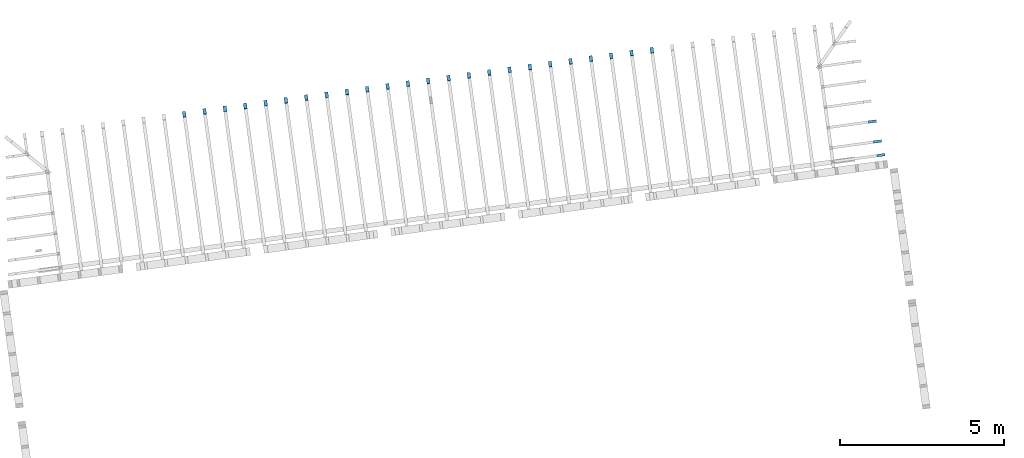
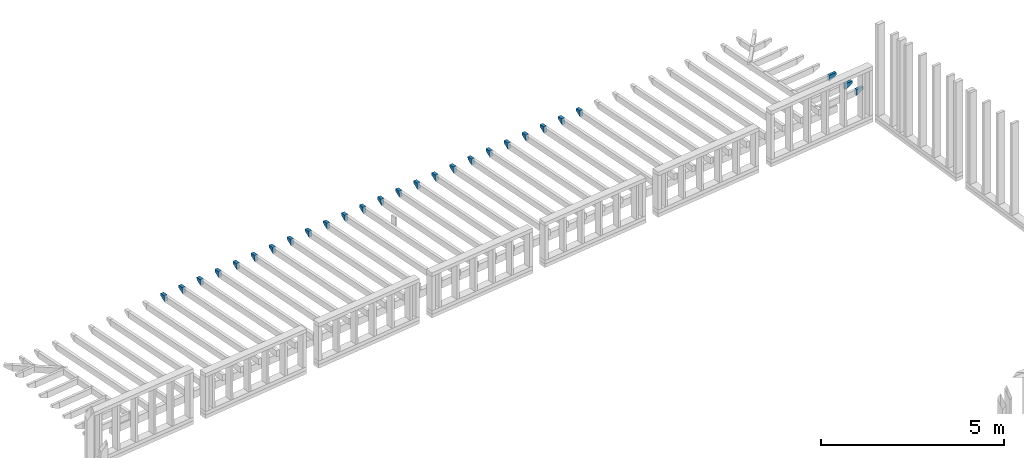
# One storey, part 15 of 16: 27 building element parts, 27 elements without a shape of their own.
"""IFC2X3 building model written with IfcOpenShell, lengths in metres."""

from ifc_helpers import new_model, entity, si_unit, converted_unit, derived_unit, money_unit, direction, frame, origin_with_axes, place, context, subcontext, project, spatial, faceted_brep, material, type_object, element, aggregate, save


model = new_model("IFC2X3")

# Units and contexts
model_context = context("Model", 3, precision=1e-05, world=origin_with_axes(), true_north=direction((0.0, 1.0)))
body_context = subcontext(model_context, "Body", "Model", "MODEL_VIEW")
ifc_project = project(units=[si_unit("LENGTHUNIT", "METRE"), si_unit("AREAUNIT", "SQUARE_METRE"), si_unit("VOLUMEUNIT", "CUBIC_METRE"), converted_unit("PLANEANGLEUNIT", "DEGREE", entity("IfcPlaneAngleMeasure", 0.0174532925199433), si_unit("PLANEANGLEUNIT", "RADIAN"), dimensions=[0, 0, 0, 0, 0, 0, 0]), money_unit("EUR"), converted_unit("TIMEUNIT", "Year", entity("IfcTimeMeasure", 31557600.0), si_unit("TIMEUNIT", "SECOND"), dimensions=[0, 0, 1, 0, 0, 0, 0]), si_unit("MASSUNIT", "GRAM", prefix="KILO"), si_unit("THERMODYNAMICTEMPERATUREUNIT", "DEGREE_CELSIUS"), si_unit("LUMINOUSINTENSITYUNIT", "LUMEN"), si_unit("ENERGYUNIT", "JOULE", prefix="MEGA"), derived_unit("THERMALCONDUCTANCEUNIT", [(si_unit("POWERUNIT", "WATT"), 1), (si_unit("LENGTHUNIT", "METRE"), -1), (si_unit("THERMODYNAMICTEMPERATUREUNIT", "KELVIN"), -1)]), derived_unit("SPECIFICHEATCAPACITYUNIT", [(si_unit("ENERGYUNIT", "JOULE"), 1), (si_unit("MASSUNIT", "GRAM", prefix="KILO"), -1), (si_unit("THERMODYNAMICTEMPERATUREUNIT", "KELVIN"), -1)]), derived_unit("MASSDENSITYUNIT", [(si_unit("MASSUNIT", "GRAM", prefix="KILO"), 1), (si_unit("VOLUMEUNIT", "CUBIC_METRE"), -1)])], contexts=[model_context])

# Site, building, storey
site_placement = place(None, origin_with_axes())
site = spatial("IfcSite", under=ifc_project, at=site_placement, Name="Gelände", CompositionType="ELEMENT")
building_placement = place(site_placement, origin_with_axes())
building = spatial("IfcBuilding", under=site, at=building_placement, Name="Gebäude", CompositionType="ELEMENT")
storey_placement = place(building_placement, frame((0.0, 0.0, 3.0), z_axis=(0.0, 0.0, 1.0), x_axis=(1.0, 0.0, 0.0)))
storey = spatial("IfcBuildingStorey", under=building, at=storey_placement, Name="ZG", CompositionType="ELEMENT", Elevation=3.0)

# Beam, building element part
beam_type_1 = type_object("IfcBeamType", Name="Verschiedene Strukturen - 2 Segmente - 100 x 200 x 4381 (4214+167)", PredefinedType="NOTDEFINED")
beam_1_placement = place(storey_placement, frame((101.7599355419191, -133.3067339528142, 1.028226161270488), z_axis=(0.0, 0.0, 1.0), x_axis=(0.9907484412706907, 0.1357111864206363, 0.0)))
beam_1 = element("IfcBeam", 1, at=beam_1_placement, inside=storey, type_object=beam_type_1, Name="Unterzug-034")
ifc_material = material(Name="Holz, Bauholz-hart")
building_element_part_1_placement = place(beam_1_placement, origin_with_axes())
building_element_part_1 = element("IfcBuildingElementPart", 2, at=building_element_part_1_placement, material=ifc_material, Name="Holz, Bauholz-hart", context=body_context, shape_type="Brep", body=[
    faceted_brep([(0.05000000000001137, 4.370583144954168, -0.3091623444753), (0.04999999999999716, 4.197525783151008, -0.4202574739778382), (-0.04999999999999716, 4.197525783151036, -0.4202574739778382), (-0.04999999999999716, 4.370583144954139, -0.3091623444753), (0.05000000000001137, 4.374770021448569, -0.2292719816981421), (0.05000000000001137, 4.207992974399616, -0.2205315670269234), (-0.04999999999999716, 4.207992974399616, -0.2205315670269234), (-0.04999999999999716, 4.374770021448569, -0.2292719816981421)], [[[0, 1, 2, 3]], [[4, 5, 1, 0]], [[5, 6, 2, 1]], [[3, 2, 6, 7]], [[4, 0, 3, 7]], [[7, 6, 5, 4]]]),
])
aggregate(beam_1, [building_element_part_1])

beam_2_placement = place(storey_placement, frame((102.3791533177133, -133.2219144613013, 1.028226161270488), z_axis=(0.0, 0.0, 1.0), x_axis=(0.9907484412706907, 0.1357111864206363, 0.0)))
beam_2 = element("IfcBeam", 3, at=beam_2_placement, inside=storey, type_object=beam_type_1, Name="Unterzug-034")
building_element_part_2_placement = place(beam_2_placement, origin_with_axes())
building_element_part_2 = element("IfcBuildingElementPart", 4, at=building_element_part_2_placement, material=ifc_material, Name="Holz, Bauholz-hart", context=body_context, shape_type="Brep", body=[
    faceted_brep([(0.05000000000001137, 4.370583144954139, -0.3091623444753), (0.05000000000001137, 4.197525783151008, -0.4202574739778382), (-0.04999999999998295, 4.197525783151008, -0.4202574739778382), (-0.04999999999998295, 4.370583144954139, -0.3091623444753), (0.05000000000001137, 4.374770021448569, -0.2292719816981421), (0.05000000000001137, 4.207992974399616, -0.2205315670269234), (-0.04999999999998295, 4.207992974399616, -0.2205315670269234), (-0.04999999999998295, 4.374770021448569, -0.2292719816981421)], [[[0, 1, 2, 3]], [[4, 5, 1, 0]], [[5, 6, 2, 1]], [[3, 2, 6, 7]], [[4, 0, 3, 7]], [[7, 6, 5, 4]]]),
])
aggregate(beam_2, [building_element_part_2])

beam_3_placement = place(storey_placement, frame((102.9983710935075, -133.1370949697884, 1.028226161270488), z_axis=(0.0, 0.0, 1.0), x_axis=(0.9907484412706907, 0.1357111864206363, 0.0)))
beam_3 = element("IfcBeam", 5, at=beam_3_placement, inside=storey, type_object=beam_type_1, Name="Unterzug-034")
building_element_part_3_placement = place(beam_3_placement, origin_with_axes())
building_element_part_3 = element("IfcBuildingElementPart", 6, at=building_element_part_3_placement, material=ifc_material, Name="Holz, Bauholz-hart", context=body_context, shape_type="Brep", body=[
    faceted_brep([(0.05000000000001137, 4.370583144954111, -0.3091623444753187), (0.05000000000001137, 4.197525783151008, -0.4202574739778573), (-0.04999999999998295, 4.197525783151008, -0.4202574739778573), (-0.04999999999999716, 4.370583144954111, -0.3091623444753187), (0.05000000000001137, 4.374770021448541, -0.2292719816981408), (0.05000000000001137, 4.207992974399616, -0.2205315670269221), (-0.04999999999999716, 4.207992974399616, -0.2205315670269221), (-0.04999999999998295, 4.374770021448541, -0.2292719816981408)], [[[0, 1, 2, 3]], [[4, 5, 1, 0]], [[5, 6, 2, 1]], [[3, 2, 6, 7]], [[4, 0, 3, 7]], [[7, 6, 5, 4]]]),
])
aggregate(beam_3, [building_element_part_3])

beam_4_placement = place(storey_placement, frame((103.6175888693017, -133.0522754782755, 1.028226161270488), z_axis=(0.0, 0.0, 1.0), x_axis=(0.9907484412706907, 0.1357111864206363, 0.0)))
beam_4 = element("IfcBeam", 7, at=beam_4_placement, inside=storey, type_object=beam_type_1, Name="Unterzug-034")
building_element_part_4_placement = place(beam_4_placement, origin_with_axes())
building_element_part_4 = element("IfcBuildingElementPart", 8, at=building_element_part_4_placement, material=ifc_material, Name="Holz, Bauholz-hart", context=body_context, shape_type="Brep", body=[
    faceted_brep([(0.05000000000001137, 4.370583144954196, -0.3091623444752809), (0.05000000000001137, 4.197525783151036, -0.4202574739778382), (-0.04999999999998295, 4.197525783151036, -0.4202574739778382), (-0.04999999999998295, 4.370583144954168, -0.3091623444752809), (0.05000000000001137, 4.374770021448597, -0.2292719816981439), (0.05000000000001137, 4.207992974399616, -0.2205315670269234), (-0.04999999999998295, 4.207992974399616, -0.2205315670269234), (-0.04999999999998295, 4.374770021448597, -0.2292719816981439)], [[[0, 1, 2, 3]], [[4, 5, 1, 0]], [[5, 6, 2, 1]], [[3, 2, 6, 7]], [[4, 0, 3, 7]], [[7, 6, 5, 4]]]),
])
aggregate(beam_4, [building_element_part_4])

beam_5_placement = place(storey_placement, frame((104.85602442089, -132.8826364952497, 1.028226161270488), z_axis=(0.0, 0.0, 1.0), x_axis=(0.9907484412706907, 0.1357111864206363, 0.0)))
beam_5 = element("IfcBeam", 9, at=beam_5_placement, inside=storey, type_object=beam_type_1, Name="Unterzug-034")
building_element_part_5_placement = place(beam_5_placement, origin_with_axes())
building_element_part_5 = element("IfcBuildingElementPart", 10, at=building_element_part_5_placement, material=ifc_material, Name="Holz, Bauholz-hart", context=body_context, shape_type="Brep", body=[
    faceted_brep([(0.04999999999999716, 4.370583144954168, -0.3091623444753), (0.04999999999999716, 4.197525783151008, -0.4202574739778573), (-0.04999999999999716, 4.197525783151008, -0.4202574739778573), (-0.04999999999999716, 4.370583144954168, -0.3091623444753), (0.05000000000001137, 4.374770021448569, -0.2292719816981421), (0.04999999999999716, 4.207992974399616, -0.2205315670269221), (-0.05000000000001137, 4.207992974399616, -0.2205315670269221), (-0.04999999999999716, 4.374770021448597, -0.2292719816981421)], [[[0, 1, 2, 3]], [[4, 5, 1, 0]], [[5, 6, 2, 1]], [[3, 2, 6, 7]], [[4, 0, 3, 7]], [[7, 6, 5, 4]]]),
])
aggregate(beam_5, [building_element_part_5])

beam_6_placement = place(storey_placement, frame((104.2368066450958, -132.9674559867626, 1.028226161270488), z_axis=(0.0, 0.0, 1.0), x_axis=(0.9907484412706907, 0.1357111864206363, 0.0)))
beam_6 = element("IfcBeam", 11, at=beam_6_placement, inside=storey, type_object=beam_type_1, Name="Unterzug-034")
building_element_part_6_placement = place(beam_6_placement, origin_with_axes())
building_element_part_6 = element("IfcBuildingElementPart", 12, at=building_element_part_6_placement, material=ifc_material, Name="Holz, Bauholz-hart", context=body_context, shape_type="Brep", body=[
    faceted_brep([(0.04999999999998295, 4.370583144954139, -0.3091623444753), (0.04999999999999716, 4.197525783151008, -0.4202574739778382), (-0.05000000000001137, 4.197525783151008, -0.4202574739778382), (-0.05000000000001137, 4.370583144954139, -0.3091623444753), (0.04999999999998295, 4.374770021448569, -0.2292719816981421), (0.04999999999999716, 4.207992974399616, -0.2205315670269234), (-0.05000000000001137, 4.207992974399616, -0.2205315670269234), (-0.05000000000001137, 4.374770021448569, -0.2292719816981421)], [[[0, 1, 2, 3]], [[4, 5, 1, 0]], [[5, 6, 2, 1]], [[3, 2, 6, 7]], [[4, 0, 3, 7]], [[7, 6, 5, 4]]]),
])
aggregate(beam_6, [building_element_part_6])

beam_7_placement = place(storey_placement, frame((100.5214999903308, -133.47637293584, 1.028226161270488), z_axis=(0.0, 0.0, 1.0), x_axis=(0.9907484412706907, 0.1357111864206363, 0.0)))
beam_7 = element("IfcBeam", 13, at=beam_7_placement, inside=storey, type_object=beam_type_1, Name="Unterzug-034")
building_element_part_7_placement = place(beam_7_placement, origin_with_axes())
building_element_part_7 = element("IfcBuildingElementPart", 14, at=building_element_part_7_placement, material=ifc_material, Name="Holz, Bauholz-hart", context=body_context, shape_type="Brep", body=[
    faceted_brep([(0.04999999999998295, 4.370583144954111, -0.3091623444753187), (0.04999999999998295, 4.197525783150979, -0.4202574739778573), (-0.05000000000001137, 4.197525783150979, -0.4202574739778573), (-0.05000000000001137, 4.370583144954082, -0.3091623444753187), (0.04999999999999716, 4.374770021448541, -0.2292719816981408), (0.04999999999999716, 4.207992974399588, -0.2205315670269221), (-0.05000000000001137, 4.207992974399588, -0.2205315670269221), (-0.05000000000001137, 4.374770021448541, -0.2292719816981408)], [[[0, 1, 2, 3]], [[4, 5, 1, 0]], [[5, 6, 2, 1]], [[3, 2, 6, 7]], [[4, 0, 3, 7]], [[7, 6, 5, 4]]]),
])
aggregate(beam_7, [building_element_part_7])

beam_8_placement = place(storey_placement, frame((101.1407177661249, -133.3915534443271, 1.028226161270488), z_axis=(0.0, 0.0, 1.0), x_axis=(0.9907484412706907, 0.1357111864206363, 0.0)))
beam_8 = element("IfcBeam", 15, at=beam_8_placement, inside=storey, type_object=beam_type_1, Name="Unterzug-034")
building_element_part_8_placement = place(beam_8_placement, origin_with_axes())
building_element_part_8 = element("IfcBuildingElementPart", 16, at=building_element_part_8_placement, material=ifc_material, Name="Holz, Bauholz-hart", context=body_context, shape_type="Brep", body=[
    faceted_brep([(0.04999999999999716, 4.370583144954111, -0.3091623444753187), (0.04999999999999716, 4.197525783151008, -0.4202574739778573), (-0.04999999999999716, 4.197525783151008, -0.4202574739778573), (-0.04999999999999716, 4.370583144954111, -0.3091623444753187), (0.04999999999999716, 4.374770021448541, -0.2292719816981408), (0.04999999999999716, 4.207992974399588, -0.2205315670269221), (-0.04999999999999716, 4.207992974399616, -0.2205315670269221), (-0.04999999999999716, 4.374770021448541, -0.2292719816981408)], [[[0, 1, 2, 3]], [[4, 5, 1, 0]], [[5, 6, 2, 1]], [[3, 2, 6, 7]], [[4, 0, 3, 7]], [[7, 6, 5, 4]]]),
])
aggregate(beam_8, [building_element_part_8])

beam_9_placement = place(storey_placement, frame((98.04462888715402, -133.8156509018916, 1.028226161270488), z_axis=(0.0, 0.0, 1.0), x_axis=(0.9907484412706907, 0.1357111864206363, 0.0)))
beam_9 = element("IfcBeam", 17, at=beam_9_placement, inside=storey, type_object=beam_type_1, Name="Unterzug-034")
building_element_part_9_placement = place(beam_9_placement, origin_with_axes())
building_element_part_9 = element("IfcBuildingElementPart", 18, at=building_element_part_9_placement, material=ifc_material, Name="Holz, Bauholz-hart", context=body_context, shape_type="Brep", body=[
    faceted_brep([(0.05000000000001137, 4.370583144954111, -0.3091623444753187), (0.05000000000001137, 4.197525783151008, -0.4202574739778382), (-0.04999999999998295, 4.197525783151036, -0.4202574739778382), (-0.04999999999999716, 4.370583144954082, -0.3091623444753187), (0.05000000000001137, 4.374770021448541, -0.2292719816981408), (0.05000000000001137, 4.207992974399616, -0.2205315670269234), (-0.04999999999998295, 4.207992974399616, -0.2205315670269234), (-0.04999999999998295, 4.374770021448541, -0.2292719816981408)], [[[0, 1, 2, 3]], [[4, 5, 1, 0]], [[5, 6, 2, 1]], [[3, 2, 6, 7]], [[4, 0, 3, 7]], [[7, 6, 5, 4]]]),
])
aggregate(beam_9, [building_element_part_9])

beam_type_2 = type_object("IfcBeamType", Name="Verschiedene Strukturen - 2 Segmente - 80 x 200 x 1530 (1290+240)", PredefinedType="NOTDEFINED")
beam_10_placement = place(storey_placement, frame((109.6434425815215, -130.9898454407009, 0.963996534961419), z_axis=(0.0, 0.0, 1.0), x_axis=(0.1357111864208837, -0.9907484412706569, 0.0)))
beam_10 = element("IfcBeam", 19, at=beam_10_placement, inside=storey, type_object=beam_type_2, Name="Unterzug-034")
building_element_part_10_placement = place(beam_10_placement, origin_with_axes())
building_element_part_10 = element("IfcBuildingElementPart", 20, at=building_element_part_10_placement, material=ifc_material, Name="Holz, Bauholz-hart", context=body_context, shape_type="Brep", body=[
    faceted_brep([(-0.04000000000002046, 1.480274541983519, 0.0), (-0.03999999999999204, 1.240274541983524, 0.0), (0.03999999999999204, 1.24027454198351, 0.0), (0.03999999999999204, 1.480274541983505, 0.0), (-0.04000000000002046, 1.480274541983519, -0.08500000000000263), (-0.03999999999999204, 1.240274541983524, -0.2000000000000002), (0.03999999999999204, 1.24027454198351, -0.2000000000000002), (0.03999999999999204, 1.480274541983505, -0.08500000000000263)], [[[0, 1, 2, 3]], [[4, 5, 1, 0]], [[5, 6, 2, 1]], [[3, 2, 6, 7]], [[4, 0, 3, 7]], [[7, 6, 5, 4]]]),
])
aggregate(beam_10, [building_element_part_10])

beam_11_placement = place(storey_placement, frame((98.6638466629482, -133.7308314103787, 1.028226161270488), z_axis=(0.0, 0.0, 1.0), x_axis=(0.9907484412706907, 0.1357111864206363, 0.0)))
beam_11 = element("IfcBeam", 21, at=beam_11_placement, inside=storey, type_object=beam_type_1, Name="Unterzug-034")
building_element_part_11_placement = place(beam_11_placement, origin_with_axes())
building_element_part_11 = element("IfcBuildingElementPart", 22, at=building_element_part_11_placement, material=ifc_material, Name="Holz, Bauholz-hart", context=body_context, shape_type="Brep", body=[
    faceted_brep([(0.05000000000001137, 4.370583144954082, -0.3091623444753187), (0.04999999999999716, 4.197525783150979, -0.4202574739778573), (-0.04999999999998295, 4.197525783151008, -0.4202574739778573), (-0.04999999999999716, 4.370583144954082, -0.3091623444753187), (0.05000000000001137, 4.374770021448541, -0.2292719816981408), (0.05000000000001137, 4.207992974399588, -0.2205315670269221), (-0.04999999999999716, 4.207992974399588, -0.2205315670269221), (-0.04999999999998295, 4.374770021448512, -0.2292719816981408)], [[[0, 1, 2, 3]], [[4, 5, 1, 0]], [[5, 6, 2, 1]], [[3, 2, 6, 7]], [[4, 0, 3, 7]], [[7, 6, 5, 4]]]),
])
aggregate(beam_11, [building_element_part_11])

beam_type_3 = type_object("IfcBeamType", Name="Verschiedene Strukturen - 2 Segmente - 80 x 200 x 1652 (1412+240)", PredefinedType="NOTDEFINED")
beam_12_placement = place(storey_placement, frame((109.7859393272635, -132.0301313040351, 1.019024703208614), z_axis=(0.0, 0.0, 1.0), x_axis=(0.135711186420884, -0.9907484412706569, 0.0)))
beam_12 = element("IfcBeam", 23, at=beam_12_placement, inside=storey, type_object=beam_type_3, Name="Unterzug-034")
building_element_part_12_placement = place(beam_12_placement, origin_with_axes())
building_element_part_12 = element("IfcBuildingElementPart", 24, at=building_element_part_12_placement, material=ifc_material, Name="Holz, Bauholz-hart", context=body_context, shape_type="Brep", body=[
    faceted_brep([(-0.04000000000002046, 1.602367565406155, 0.0), (-0.03999999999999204, 1.362367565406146, 0.0), (0.03999999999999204, 1.362367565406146, 0.0), (0.03999999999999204, 1.602367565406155, 0.0), (-0.04000000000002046, 1.602367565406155, -0.08499999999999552), (-0.03999999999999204, 1.362367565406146, -0.2000000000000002), (0.03999999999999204, 1.362367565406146, -0.2000000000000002), (0.03999999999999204, 1.602367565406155, -0.08499999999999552)], [[[0, 1, 2, 3]], [[4, 5, 1, 0]], [[5, 6, 2, 1]], [[3, 2, 6, 7]], [[4, 0, 3, 7]], [[7, 6, 5, 4]]]),
])
aggregate(beam_12, [building_element_part_12])

beam_type_4 = type_object("IfcBeamType", Name="Verschiedene Strukturen - 2 Segmente - 80 x 200 x 1603 (1363+240)", PredefinedType="NOTDEFINED")
beam_13_placement = place(storey_placement, frame((109.7282620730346, -131.609063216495, 0.9967513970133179), z_axis=(0.0, 0.0, 1.0), x_axis=(0.1357111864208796, -0.9907484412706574, 0.0)))
beam_13 = element("IfcBeam", 25, at=beam_13_placement, inside=storey, type_object=beam_type_4, Name="Unterzug-034")
building_element_part_13_placement = place(beam_13_placement, origin_with_axes())
building_element_part_13 = element("IfcBuildingElementPart", 26, at=building_element_part_13_placement, material=ifc_material, Name="Holz, Bauholz-hart", context=body_context, shape_type="Brep", body=[
    faceted_brep([(-0.03999999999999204, 1.552948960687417, 0.0), (-0.03999999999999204, 1.312948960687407, 0.0), (0.04000000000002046, 1.312948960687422, 0.0), (0.04000000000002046, 1.552948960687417, 0.0), (-0.03999999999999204, 1.552948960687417, -0.08499999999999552), (-0.03999999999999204, 1.312948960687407, -0.2000000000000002), (0.04000000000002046, 1.312948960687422, -0.2000000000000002), (0.04000000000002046, 1.552948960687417, -0.08499999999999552)], [[[0, 1, 2, 3]], [[4, 5, 1, 0]], [[5, 6, 2, 1]], [[3, 2, 6, 7]], [[4, 0, 3, 7]], [[7, 6, 5, 4]]]),
])
aggregate(beam_13, [building_element_part_13])

beam_14_placement = place(storey_placement, frame((90.61401557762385, -134.8334848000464, 1.028226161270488), z_axis=(0.0, 0.0, 1.0), x_axis=(0.9907484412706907, 0.1357111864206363, 0.0)))
beam_14 = element("IfcBeam", 27, at=beam_14_placement, inside=storey, type_object=beam_type_1, Name="Unterzug-034")
building_element_part_14_placement = place(beam_14_placement, origin_with_axes())
building_element_part_14 = element("IfcBuildingElementPart", 28, at=building_element_part_14_placement, material=ifc_material, Name="Holz, Bauholz-hart", context=body_context, shape_type="Brep", body=[
    faceted_brep([(0.04999999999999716, 4.370583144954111, -0.3091623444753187), (0.04999999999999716, 4.197525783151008, -0.4202574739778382), (-0.05000000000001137, 4.197525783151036, -0.4202574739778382), (-0.04999999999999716, 4.370583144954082, -0.3091623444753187), (0.04999999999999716, 4.374770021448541, -0.2292719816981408), (0.05000000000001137, 4.207992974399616, -0.2205315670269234), (-0.04999999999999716, 4.207992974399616, -0.2205315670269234), (-0.04999999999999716, 4.374770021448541, -0.2292719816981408)], [[[0, 1, 2, 3]], [[4, 5, 1, 0]], [[5, 6, 2, 1]], [[3, 2, 6, 7]], [[4, 0, 3, 7]], [[7, 6, 5, 4]]]),
])
aggregate(beam_14, [building_element_part_14])

beam_15_placement = place(storey_placement, frame((91.23323335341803, -134.7486653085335, 1.028226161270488), z_axis=(0.0, 0.0, 1.0), x_axis=(0.9907484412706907, 0.1357111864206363, 0.0)))
beam_15 = element("IfcBeam", 29, at=beam_15_placement, inside=storey, type_object=beam_type_1, Name="Unterzug-034")
building_element_part_15_placement = place(beam_15_placement, origin_with_axes())
building_element_part_15 = element("IfcBuildingElementPart", 30, at=building_element_part_15_placement, material=ifc_material, Name="Holz, Bauholz-hart", context=body_context, shape_type="Brep", body=[
    faceted_brep([(0.04999999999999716, 4.370583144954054, -0.3091623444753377), (0.04999999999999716, 4.197525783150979, -0.4202574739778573), (-0.04999999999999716, 4.197525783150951, -0.4202574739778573), (-0.04999999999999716, 4.370583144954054, -0.3091623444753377), (0.04999999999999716, 4.374770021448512, -0.2292719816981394), (0.04999999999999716, 4.207992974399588, -0.2205315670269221), (-0.05000000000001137, 4.207992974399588, -0.2205315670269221), (-0.04999999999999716, 4.374770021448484, -0.2292719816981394)], [[[0, 1, 2, 3]], [[4, 5, 1, 0]], [[5, 6, 2, 1]], [[3, 2, 6, 7]], [[4, 0, 3, 7]], [[7, 6, 5, 4]]]),
])
aggregate(beam_15, [building_element_part_15])

beam_16_placement = place(storey_placement, frame((91.85245112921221, -134.6638458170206, 1.028226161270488), z_axis=(0.0, 0.0, 1.0), x_axis=(0.9907484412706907, 0.1357111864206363, 0.0)))
beam_16 = element("IfcBeam", 31, at=beam_16_placement, inside=storey, type_object=beam_type_1, Name="Unterzug-034")
building_element_part_16_placement = place(beam_16_placement, origin_with_axes())
building_element_part_16 = element("IfcBuildingElementPart", 32, at=building_element_part_16_placement, material=ifc_material, Name="Holz, Bauholz-hart", context=body_context, shape_type="Brep", body=[
    faceted_brep([(0.04999999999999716, 4.370583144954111, -0.3091623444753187), (0.04999999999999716, 4.197525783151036, -0.4202574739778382), (-0.05000000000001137, 4.197525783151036, -0.4202574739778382), (-0.04999999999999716, 4.370583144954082, -0.3091623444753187), (0.04999999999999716, 4.374770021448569, -0.2292719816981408), (0.05000000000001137, 4.207992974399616, -0.2205315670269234), (-0.04999999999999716, 4.207992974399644, -0.2205315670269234), (-0.04999999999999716, 4.374770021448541, -0.2292719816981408)], [[[0, 1, 2, 3]], [[4, 5, 1, 0]], [[5, 6, 2, 1]], [[3, 2, 6, 7]], [[4, 0, 3, 7]], [[7, 6, 5, 4]]]),
])
aggregate(beam_16, [building_element_part_16])

beam_17_placement = place(storey_placement, frame((92.4716689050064, -134.5790263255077, 1.028226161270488), z_axis=(0.0, 0.0, 1.0), x_axis=(0.9907484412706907, 0.1357111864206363, 0.0)))
beam_17 = element("IfcBeam", 33, at=beam_17_placement, inside=storey, type_object=beam_type_1, Name="Unterzug-034")
building_element_part_17_placement = place(beam_17_placement, origin_with_axes())
building_element_part_17 = element("IfcBuildingElementPart", 34, at=building_element_part_17_placement, material=ifc_material, Name="Holz, Bauholz-hart", context=body_context, shape_type="Brep", body=[
    faceted_brep([(0.05000000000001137, 4.370583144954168, -0.3091623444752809), (0.04999999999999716, 4.197525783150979, -0.4202574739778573), (-0.04999999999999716, 4.197525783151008, -0.4202574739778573), (-0.04999999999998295, 4.370583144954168, -0.3091623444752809), (0.05000000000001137, 4.374770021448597, -0.2292719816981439), (0.05000000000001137, 4.207992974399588, -0.2205315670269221), (-0.04999999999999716, 4.207992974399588, -0.2205315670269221), (-0.04999999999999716, 4.374770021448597, -0.2292719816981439)], [[[0, 1, 2, 3]], [[4, 5, 1, 0]], [[5, 6, 2, 1]], [[3, 2, 6, 7]], [[4, 0, 3, 7]], [[7, 6, 5, 4]]]),
])
aggregate(beam_17, [building_element_part_17])

beam_18_placement = place(storey_placement, frame((93.09088668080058, -134.4942068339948, 1.028226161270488), z_axis=(0.0, 0.0, 1.0), x_axis=(0.9907484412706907, 0.1357111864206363, 0.0)))
beam_18 = element("IfcBeam", 35, at=beam_18_placement, inside=storey, type_object=beam_type_1, Name="Unterzug-034")
building_element_part_18_placement = place(beam_18_placement, origin_with_axes())
building_element_part_18 = element("IfcBuildingElementPart", 36, at=building_element_part_18_placement, material=ifc_material, Name="Holz, Bauholz-hart", context=body_context, shape_type="Brep", body=[
    faceted_brep([(0.05000000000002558, 4.370583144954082, -0.3091623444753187), (0.04999999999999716, 4.197525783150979, -0.4202574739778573), (-0.04999999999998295, 4.197525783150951, -0.4202574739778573), (-0.04999999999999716, 4.370583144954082, -0.3091623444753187), (0.04999999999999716, 4.374770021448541, -0.2292719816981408), (0.04999999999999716, 4.207992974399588, -0.2205315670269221), (-0.04999999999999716, 4.207992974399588, -0.2205315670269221), (-0.04999999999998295, 4.374770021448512, -0.2292719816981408)], [[[0, 1, 2, 3]], [[4, 5, 1, 0]], [[5, 6, 2, 1]], [[3, 2, 6, 7]], [[4, 0, 3, 7]], [[7, 6, 5, 4]]]),
])
aggregate(beam_18, [building_element_part_18])

beam_19_placement = place(storey_placement, frame((93.71010445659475, -134.4093873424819, 1.028226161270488), z_axis=(0.0, 0.0, 1.0), x_axis=(0.9907484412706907, 0.1357111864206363, 0.0)))
beam_19 = element("IfcBeam", 37, at=beam_19_placement, inside=storey, type_object=beam_type_1, Name="Unterzug-034")
building_element_part_19_placement = place(beam_19_placement, origin_with_axes())
building_element_part_19 = element("IfcBuildingElementPart", 38, at=building_element_part_19_placement, material=ifc_material, Name="Holz, Bauholz-hart", context=body_context, shape_type="Brep", body=[
    faceted_brep([(0.05000000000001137, 4.370583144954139, -0.3091623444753), (0.05000000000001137, 4.197525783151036, -0.4202574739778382), (-0.04999999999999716, 4.197525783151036, -0.4202574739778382), (-0.04999999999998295, 4.370583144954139, -0.3091623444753), (0.05000000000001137, 4.374770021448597, -0.2292719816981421), (0.05000000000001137, 4.207992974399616, -0.2205315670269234), (-0.04999999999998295, 4.207992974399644, -0.2205315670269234), (-0.04999999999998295, 4.374770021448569, -0.2292719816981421)], [[[0, 1, 2, 3]], [[4, 5, 1, 0]], [[5, 6, 2, 1]], [[3, 2, 6, 7]], [[4, 0, 3, 7]], [[7, 6, 5, 4]]]),
])
aggregate(beam_19, [building_element_part_19])

beam_20_placement = place(storey_placement, frame((94.32932223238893, -134.324567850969, 1.028226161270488), z_axis=(0.0, 0.0, 1.0), x_axis=(0.9907484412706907, 0.1357111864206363, 0.0)))
beam_20 = element("IfcBeam", 39, at=beam_20_placement, inside=storey, type_object=beam_type_1, Name="Unterzug-034")
building_element_part_20_placement = place(beam_20_placement, origin_with_axes())
building_element_part_20 = element("IfcBuildingElementPart", 40, at=building_element_part_20_placement, material=ifc_material, Name="Holz, Bauholz-hart", context=body_context, shape_type="Brep", body=[
    faceted_brep([(0.05000000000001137, 4.370583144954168, -0.3091623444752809), (0.05000000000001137, 4.197525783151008, -0.4202574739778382), (-0.04999999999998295, 4.197525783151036, -0.4202574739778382), (-0.04999999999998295, 4.370583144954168, -0.3091623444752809), (0.05000000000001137, 4.374770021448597, -0.2292719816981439), (0.05000000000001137, 4.207992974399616, -0.2205315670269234), (-0.04999999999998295, 4.207992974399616, -0.2205315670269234), (-0.04999999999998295, 4.374770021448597, -0.2292719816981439)], [[[0, 1, 2, 3]], [[4, 5, 1, 0]], [[5, 6, 2, 1]], [[3, 2, 6, 7]], [[4, 0, 3, 7]], [[7, 6, 5, 4]]]),
])
aggregate(beam_20, [building_element_part_20])

beam_21_placement = place(storey_placement, frame((94.94854000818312, -134.2397483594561, 1.028226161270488), z_axis=(0.0, 0.0, 1.0), x_axis=(0.9907484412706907, 0.1357111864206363, 0.0)))
beam_21 = element("IfcBeam", 41, at=beam_21_placement, inside=storey, type_object=beam_type_1, Name="Unterzug-034")
building_element_part_21_placement = place(beam_21_placement, origin_with_axes())
building_element_part_21 = element("IfcBuildingElementPart", 42, at=building_element_part_21_placement, material=ifc_material, Name="Holz, Bauholz-hart", context=body_context, shape_type="Brep", body=[
    faceted_brep([(0.04999999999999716, 4.370583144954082, -0.3091623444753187), (0.04999999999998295, 4.197525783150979, -0.4202574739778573), (-0.04999999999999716, 4.197525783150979, -0.4202574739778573), (-0.04999999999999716, 4.370583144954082, -0.3091623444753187), (0.04999999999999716, 4.374770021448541, -0.2292719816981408), (0.04999999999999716, 4.207992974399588, -0.2205315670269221), (-0.05000000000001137, 4.207992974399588, -0.2205315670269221), (-0.04999999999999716, 4.374770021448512, -0.2292719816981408)], [[[0, 1, 2, 3]], [[4, 5, 1, 0]], [[5, 6, 2, 1]], [[3, 2, 6, 7]], [[4, 0, 3, 7]], [[7, 6, 5, 4]]]),
])
aggregate(beam_21, [building_element_part_21])

beam_22_placement = place(storey_placement, frame((95.5677577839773, -134.1549288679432, 1.028226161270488), z_axis=(0.0, 0.0, 1.0), x_axis=(0.9907484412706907, 0.1357111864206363, 0.0)))
beam_22 = element("IfcBeam", 43, at=beam_22_placement, inside=storey, type_object=beam_type_1, Name="Unterzug-034")
building_element_part_22_placement = place(beam_22_placement, origin_with_axes())
building_element_part_22 = element("IfcBuildingElementPart", 44, at=building_element_part_22_placement, material=ifc_material, Name="Holz, Bauholz-hart", context=body_context, shape_type="Brep", body=[
    faceted_brep([(0.04999999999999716, 4.370583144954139, -0.3091623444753), (0.04999999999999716, 4.197525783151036, -0.4202574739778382), (-0.05000000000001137, 4.197525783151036, -0.4202574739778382), (-0.04999999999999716, 4.370583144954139, -0.3091623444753), (0.04999999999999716, 4.374770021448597, -0.2292719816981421), (0.05000000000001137, 4.207992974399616, -0.2205315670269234), (-0.04999999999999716, 4.207992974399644, -0.2205315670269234), (-0.04999999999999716, 4.374770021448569, -0.2292719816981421)], [[[0, 1, 2, 3]], [[4, 5, 1, 0]], [[5, 6, 2, 1]], [[3, 2, 6, 7]], [[4, 0, 3, 7]], [[7, 6, 5, 4]]]),
])
aggregate(beam_22, [building_element_part_22])

beam_type_5 = type_object("IfcBeamType", Name="Verschiedene Strukturen - 2 Segmente - 100 x 200 x 4243 (4076+167)", PredefinedType="NOTDEFINED")
beam_23_placement = place(storey_placement, frame((96.16824742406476, -133.9333861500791, 1.020993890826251), z_axis=(0.0, 0.0, 1.0), x_axis=(0.9907484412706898, 0.1357111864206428, 0.0)))
beam_23 = element("IfcBeam", 45, at=beam_23_placement, inside=storey, type_object=beam_type_5, Name="Unterzug-034")
building_element_part_23_placement = place(beam_23_placement, origin_with_axes())
building_element_part_23 = element("IfcBuildingElementPart", 46, at=building_element_part_23_placement, material=ifc_material, Name="Holz, Bauholz-hart", context=body_context, shape_type="Brep", body=[
    faceted_brep([(0.04999999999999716, 4.232583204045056, -0.3019300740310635), (0.05000000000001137, 4.059525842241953, -0.4130252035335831), (-0.05000000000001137, 4.059525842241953, -0.4130252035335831), (-0.04999999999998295, 4.232583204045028, -0.3019300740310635), (0.05000000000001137, 4.236770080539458, -0.2220397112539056), (0.05000000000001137, 4.069993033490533, -0.2132992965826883), (-0.04999999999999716, 4.069993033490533, -0.2132992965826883), (-0.05000000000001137, 4.236770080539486, -0.2220397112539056)], [[[0, 1, 2, 3]], [[4, 5, 1, 0]], [[5, 6, 2, 1]], [[3, 2, 6, 7]], [[4, 0, 3, 7]], [[7, 6, 5, 4]]]),
])
aggregate(beam_23, [building_element_part_23])

beam_24_placement = place(storey_placement, frame((96.80619333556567, -133.9852898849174, 1.028226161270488), z_axis=(0.0, 0.0, 1.0), x_axis=(0.9907484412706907, 0.1357111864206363, 0.0)))
beam_24 = element("IfcBeam", 47, at=beam_24_placement, inside=storey, type_object=beam_type_1, Name="Unterzug-034")
building_element_part_24_placement = place(beam_24_placement, origin_with_axes())
building_element_part_24 = element("IfcBuildingElementPart", 48, at=building_element_part_24_placement, material=ifc_material, Name="Holz, Bauholz-hart", context=body_context, shape_type="Brep", body=[
    faceted_brep([(0.04999999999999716, 4.370583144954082, -0.3091623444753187), (0.04999999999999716, 4.197525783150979, -0.4202574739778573), (-0.04999999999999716, 4.197525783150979, -0.4202574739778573), (-0.04999999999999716, 4.370583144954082, -0.3091623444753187), (0.04999999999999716, 4.374770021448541, -0.2292719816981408), (0.04999999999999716, 4.207992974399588, -0.2205315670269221), (-0.05000000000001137, 4.207992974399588, -0.2205315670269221), (-0.04999999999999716, 4.374770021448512, -0.2292719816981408)], [[[0, 1, 2, 3]], [[4, 5, 1, 0]], [[5, 6, 2, 1]], [[3, 2, 6, 7]], [[4, 0, 3, 7]], [[7, 6, 5, 4]]]),
])
aggregate(beam_24, [building_element_part_24])

beam_25_placement = place(storey_placement, frame((97.42541111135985, -133.9004703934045, 1.028226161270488), z_axis=(0.0, 0.0, 1.0), x_axis=(0.9907484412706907, 0.1357111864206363, 0.0)))
beam_25 = element("IfcBeam", 49, at=beam_25_placement, inside=storey, type_object=beam_type_1, Name="Unterzug-034")
building_element_part_25_placement = place(beam_25_placement, origin_with_axes())
building_element_part_25 = element("IfcBuildingElementPart", 50, at=building_element_part_25_placement, material=ifc_material, Name="Holz, Bauholz-hart", context=body_context, shape_type="Brep", body=[
    faceted_brep([(0.04999999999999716, 4.370583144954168, -0.3091623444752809), (0.04999999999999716, 4.197525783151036, -0.4202574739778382), (-0.05000000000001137, 4.197525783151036, -0.4202574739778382), (-0.04999999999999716, 4.370583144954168, -0.3091623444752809), (0.04999999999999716, 4.374770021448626, -0.2292719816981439), (0.04999999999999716, 4.207992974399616, -0.2205315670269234), (-0.04999999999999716, 4.207992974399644, -0.2205315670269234), (-0.05000000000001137, 4.374770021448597, -0.2292719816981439)], [[[0, 1, 2, 3]], [[4, 5, 1, 0]], [[5, 6, 2, 1]], [[3, 2, 6, 7]], [[4, 0, 3, 7]], [[7, 6, 5, 4]]]),
])
aggregate(beam_25, [building_element_part_25])

beam_26_placement = place(storey_placement, frame((99.28306443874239, -133.6460119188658, 1.028226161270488), z_axis=(0.0, 0.0, 1.0), x_axis=(0.9907484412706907, 0.1357111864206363, 0.0)))
beam_26 = element("IfcBeam", 51, at=beam_26_placement, inside=storey, type_object=beam_type_1, Name="Unterzug-034")
building_element_part_26_placement = place(beam_26_placement, origin_with_axes())
building_element_part_26 = element("IfcBuildingElementPart", 52, at=building_element_part_26_placement, material=ifc_material, Name="Holz, Bauholz-hart", context=body_context, shape_type="Brep", body=[
    faceted_brep([(0.04999999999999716, 4.370583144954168, -0.3091623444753), (0.04999999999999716, 4.197525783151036, -0.4202574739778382), (-0.04999999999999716, 4.197525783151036, -0.4202574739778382), (-0.04999999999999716, 4.370583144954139, -0.3091623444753), (0.04999999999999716, 4.374770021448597, -0.2292719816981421), (0.04999999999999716, 4.207992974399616, -0.2205315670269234), (-0.04999999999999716, 4.207992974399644, -0.2205315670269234), (-0.04999999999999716, 4.374770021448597, -0.2292719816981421)], [[[0, 1, 2, 3]], [[4, 5, 1, 0]], [[5, 6, 2, 1]], [[3, 2, 6, 7]], [[4, 0, 3, 7]], [[7, 6, 5, 4]]]),
])
aggregate(beam_26, [building_element_part_26])

beam_27_placement = place(storey_placement, frame((99.88355408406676, -133.4244692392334, 1.020993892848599), z_axis=(0.0, 0.0, 1.0), x_axis=(0.9907484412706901, 0.1357111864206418, 0.0)))
beam_27 = element("IfcBeam", 53, at=beam_27_placement, inside=storey, type_object=beam_type_5, Name="Unterzug-034")
building_element_part_27_placement = place(beam_27_placement, origin_with_axes())
building_element_part_27 = element("IfcBuildingElementPart", 54, at=building_element_part_27_placement, material=ifc_material, Name="Holz, Bauholz-hart", context=body_context, shape_type="Brep", body=[
    faceted_brep([(0.04999999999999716, 4.232583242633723, -0.3019300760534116), (0.04999999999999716, 4.059525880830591, -0.4130252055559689), (-0.04999999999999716, 4.059525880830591, -0.4130252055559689), (-0.04999999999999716, 4.232583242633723, -0.3019300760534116), (0.04999999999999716, 4.236770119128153, -0.2220397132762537), (0.04999999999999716, 4.069993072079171, -0.2132992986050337), (-0.04999999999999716, 4.069993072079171, -0.2132992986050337), (-0.04999999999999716, 4.236770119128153, -0.2220397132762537)], [[[0, 1, 2, 3]], [[4, 5, 1, 0]], [[5, 6, 2, 1]], [[3, 2, 6, 7]], [[4, 0, 3, 7]], [[7, 6, 5, 4]]]),
])
aggregate(beam_27, [building_element_part_27])

save(model, "model.ifc")
